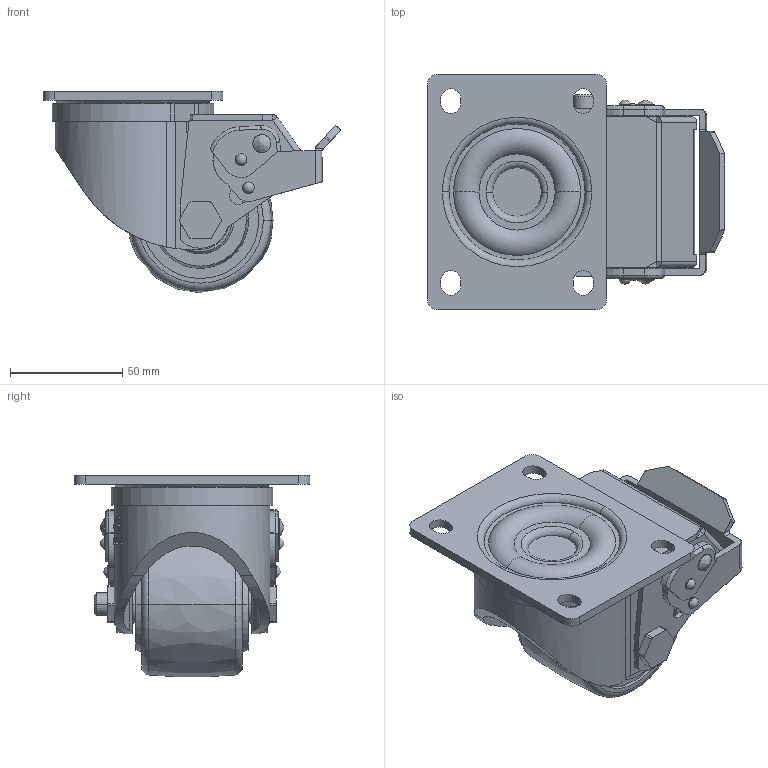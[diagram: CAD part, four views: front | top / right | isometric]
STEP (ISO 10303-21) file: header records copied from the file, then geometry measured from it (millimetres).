
FILE_DESCRIPTION(/* description */ (''),/* implementation_level */ '2;1');
FILE_NAME(/* name */ '30A23_2,5_F.stp',/* time_stamp */ '2022-10-07T08:10:31+08:00',/* author */ (''),/* organization */ (''),/* preprocessor_version */ 'ST-DEVELOPER v14',/* originating_system */ 'SIEMENS PLM Software NX 8.0',/* authorisation */ '');
FILE_SCHEMA (('AUTOMOTIVE_DESIGN { 1 0 10303 214 3 1 1 1 }'));
Length unit declared in the file: millimetre
Products named in the file (1): 30A23_2,5_F
Bounding box: 132.56 x 105 x 89.9 mm (x, y, z)
Volume: 259796.7 mm3; surface area: 98833 mm2
Topology: 1 solids, 6 shells, 692 faces, 1874 edges, 1220 vertices
Faces by surface type: plane 368, cylinder 254, torus 31, cone 18, bspline 17, sphere 4
Full cylindrical faces by diameter (mm): 5.2 x4, 7.2 x4, 8 x5
Entity records: 23101 total; most frequent: CARTESIAN_POINT 5284, DIRECTION 3819, ORIENTED_EDGE 3714, EDGE_CURVE 1857, AXIS2_PLACEMENT_3D 1422, VERTEX_POINT 1216, LINE 975, VECTOR 975
